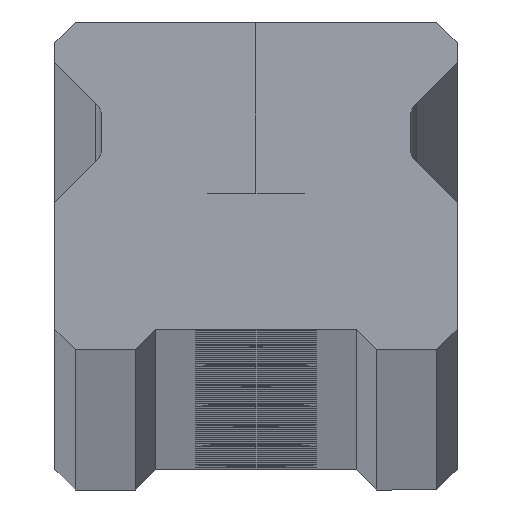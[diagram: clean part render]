
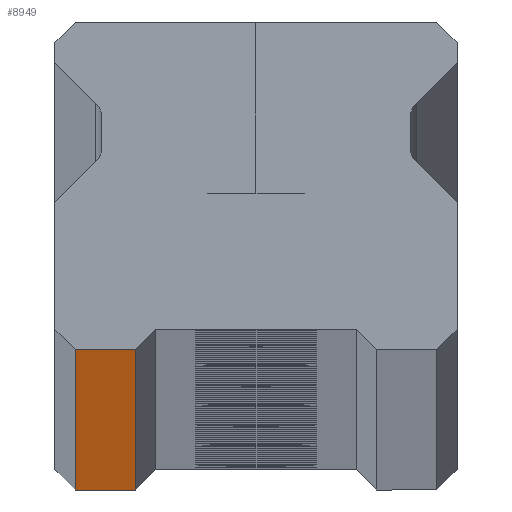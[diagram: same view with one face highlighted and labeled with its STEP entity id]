
A CAD part, top view. The second image highlights one B-rep face of the part: STEP entity #8949.
In plain terms, the highlighted planar face has unit normal (0, -1, 0).
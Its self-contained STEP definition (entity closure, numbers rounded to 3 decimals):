
#236 = DIRECTION ( 'NONE',  ( 1., 0., 0. ) ) ;
#488 = CARTESIAN_POINT ( 'NONE',  ( -9., 0., 2000. ) ) ;
#1236 = CARTESIAN_POINT ( 'NONE',  ( -9., 0., -2000. ) ) ;
#1298 = DIRECTION ( 'NONE',  ( 0., 0., 1. ) ) ;
#1887 = CARTESIAN_POINT ( 'NONE',  ( -9., 0., 2000. ) ) ;
#2038 = DIRECTION ( 'NONE',  ( 0., 0., -1. ) ) ;
#2403 = VERTEX_POINT ( 'NONE', #3728 ) ;
#2852 = LINE ( 'NONE', #8212, #9495 ) ;
#2969 = LINE ( 'NONE', #488, #4453 ) ;
#3398 = VERTEX_POINT ( 'NONE', #4619 ) ;
#3564 = AXIS2_PLACEMENT_3D ( 'NONE', #7576, #8534, #6823 ) ;
#3709 = EDGE_CURVE ( 'NONE', #5944, #2403, #10092, .T. ) ;
#3728 = CARTESIAN_POINT ( 'NONE',  ( -6., 0., 2000. ) ) ;
#3740 = ORIENTED_EDGE ( 'NONE', *, *, #9327, .T. ) ;
#4453 = VECTOR ( 'NONE', #2038, 1000. ) ;
#4619 = CARTESIAN_POINT ( 'NONE',  ( -6., 0., -2000. ) ) ;
#4793 = PLANE ( 'NONE',  #3564 ) ;
#5600 = EDGE_LOOP ( 'NONE', ( #10522, #3740, #6118, #10618 ) ) ;
#5944 = VERTEX_POINT ( 'NONE', #1887 ) ;
#6118 = ORIENTED_EDGE ( 'NONE', *, *, #3709, .F. ) ;
#6823 = DIRECTION ( 'NONE',  ( -1., 0., 0. ) ) ;
#7211 = FACE_OUTER_BOUND ( 'NONE', #5600, .T. ) ;
#7259 = VECTOR ( 'NONE', #236, 1000. ) ;
#7576 = CARTESIAN_POINT ( 'NONE',  ( 10., 0., 2000. ) ) ;
#7697 = LINE ( 'NONE', #7886, #8365 ) ;
#7886 = CARTESIAN_POINT ( 'NONE',  ( 10., 0., -2000. ) ) ;
#8212 = CARTESIAN_POINT ( 'NONE',  ( -6., 0., -2000. ) ) ;
#8365 = VECTOR ( 'NONE', #10436, 1000. ) ;
#8534 = DIRECTION ( 'NONE',  ( 0., 1., 0. ) ) ;
#8949 = ADVANCED_FACE ( 'NONE', ( #7211 ), #4793, .F. ) ;
#9327 = EDGE_CURVE ( 'NONE', #3398, #2403, #2852, .T. ) ;
#9495 = VECTOR ( 'NONE', #1298, 1000. ) ;
#9596 = VERTEX_POINT ( 'NONE', #1236 ) ;
#10092 = LINE ( 'NONE', #10600, #7259 ) ;
#10202 = EDGE_CURVE ( 'NONE', #5944, #9596, #2969, .T. ) ;
#10436 = DIRECTION ( 'NONE',  ( 1., 0., 0. ) ) ;
#10522 = ORIENTED_EDGE ( 'NONE', *, *, #11196, .T. ) ;
#10600 = CARTESIAN_POINT ( 'NONE',  ( 10., 0., 2000. ) ) ;
#10618 = ORIENTED_EDGE ( 'NONE', *, *, #10202, .T. ) ;
#11196 = EDGE_CURVE ( 'NONE', #9596, #3398, #7697, .T. ) ;
